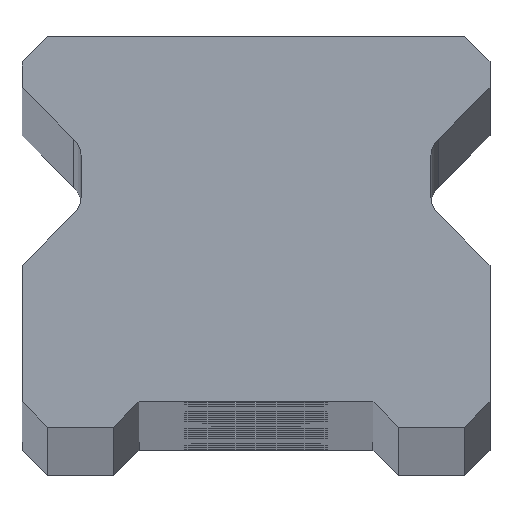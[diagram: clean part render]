
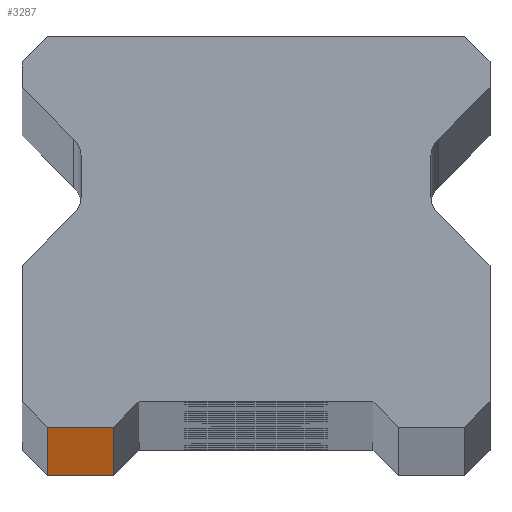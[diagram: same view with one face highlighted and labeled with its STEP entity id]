
A CAD part, top view. The second image highlights one B-rep face of the part: STEP entity #3287.
In plain terms, the highlighted planar face has unit normal (0, -1, 0).
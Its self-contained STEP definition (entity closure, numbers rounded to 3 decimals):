
#181 = DIRECTION ( 'NONE',  ( 0., 0., 1. ) ) ;
#460 = PLANE ( 'NONE',  #2236 ) ;
#661 = ORIENTED_EDGE ( 'NONE', *, *, #2298, .T. ) ;
#760 = VERTEX_POINT ( 'NONE', #2395 ) ;
#766 = CARTESIAN_POINT ( 'NONE',  ( 11.5, 0., 680. ) ) ;
#790 = LINE ( 'NONE', #3988, #1324 ) ;
#871 = LINE ( 'NONE', #2721, #4396 ) ;
#901 = VECTOR ( 'NONE', #1503, 1000. ) ;
#1123 = DIRECTION ( 'NONE',  ( 0., 1., 0. ) ) ;
#1280 = EDGE_CURVE ( 'NONE', #760, #2092, #871, .T. ) ;
#1324 = VECTOR ( 'NONE', #2622, 1000. ) ;
#1377 = DIRECTION ( 'NONE',  ( 1., 0., 0. ) ) ;
#1503 = DIRECTION ( 'NONE',  ( 0., 0., -1. ) ) ;
#1634 = ORIENTED_EDGE ( 'NONE', *, *, #2428, .F. ) ;
#1749 = CARTESIAN_POINT ( 'NONE',  ( -10.25, 0., 680. ) ) ;
#2024 = EDGE_LOOP ( 'NONE', ( #2227, #661, #1634, #3012 ) ) ;
#2092 = VERTEX_POINT ( 'NONE', #4162 ) ;
#2162 = FACE_OUTER_BOUND ( 'NONE', #2024, .T. ) ;
#2227 = ORIENTED_EDGE ( 'NONE', *, *, #1280, .T. ) ;
#2236 = AXIS2_PLACEMENT_3D ( 'NONE', #766, #1123, #2856 ) ;
#2257 = EDGE_CURVE ( 'NONE', #4433, #760, #3620, .T. ) ;
#2298 = EDGE_CURVE ( 'NONE', #2092, #2883, #3198, .T. ) ;
#2395 = CARTESIAN_POINT ( 'NONE',  ( -10.25, 0., -680. ) ) ;
#2428 = EDGE_CURVE ( 'NONE', #4433, #2883, #790, .T. ) ;
#2622 = DIRECTION ( 'NONE',  ( 1., 0., 0. ) ) ;
#2721 = CARTESIAN_POINT ( 'NONE',  ( 11.5, 0., -680. ) ) ;
#2856 = DIRECTION ( 'NONE',  ( -1., 0., 0. ) ) ;
#2883 = VERTEX_POINT ( 'NONE', #3981 ) ;
#3012 = ORIENTED_EDGE ( 'NONE', *, *, #2257, .T. ) ;
#3198 = LINE ( 'NONE', #3958, #3249 ) ;
#3249 = VECTOR ( 'NONE', #181, 1000. ) ;
#3287 = ADVANCED_FACE ( 'NONE', ( #2162 ), #460, .F. ) ;
#3562 = CARTESIAN_POINT ( 'NONE',  ( -10.25, 0., 680. ) ) ;
#3620 = LINE ( 'NONE', #3562, #901 ) ;
#3958 = CARTESIAN_POINT ( 'NONE',  ( -7., 0., -680. ) ) ;
#3981 = CARTESIAN_POINT ( 'NONE',  ( -7., 0., 680. ) ) ;
#3988 = CARTESIAN_POINT ( 'NONE',  ( 11.5, 0., 680. ) ) ;
#4162 = CARTESIAN_POINT ( 'NONE',  ( -7., 0., -680. ) ) ;
#4396 = VECTOR ( 'NONE', #1377, 1000. ) ;
#4433 = VERTEX_POINT ( 'NONE', #1749 ) ;
